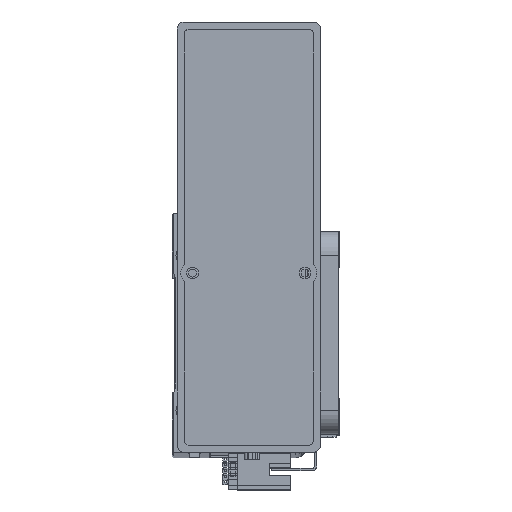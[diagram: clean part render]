
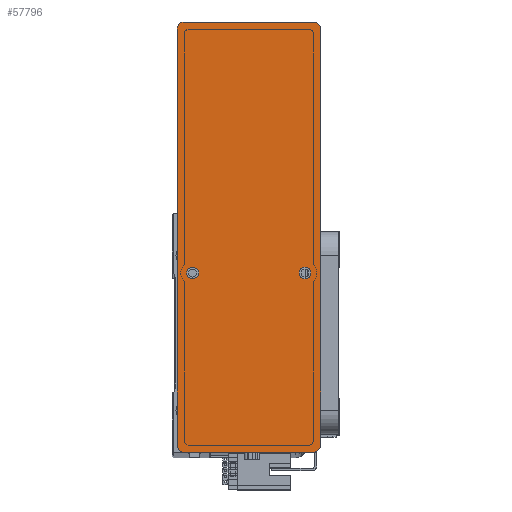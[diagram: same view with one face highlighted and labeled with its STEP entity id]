
A CAD part, top view. The second image highlights one B-rep face of the part: STEP entity #57796.
In plain terms, the highlighted planar face has unit normal (0, 0, 1) as drawn and (0, 0, -1) by its records, which use the part's own axes.
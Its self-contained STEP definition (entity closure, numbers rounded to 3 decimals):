
#886 = CIRCLE ( 'NONE', #36260, 3. ) ;
#2056 = VERTEX_POINT ( 'NONE', #12067 ) ;
#2111 = EDGE_CURVE ( 'NONE', #51467, #55184, #886, .T. ) ;
#2482 = VECTOR ( 'NONE', #28591, 1000. ) ;
#2752 = CARTESIAN_POINT ( 'NONE',  ( -12.5, -23.5, 0. ) ) ;
#2822 = DIRECTION ( 'NONE',  ( -1., 0., 0. ) ) ;
#3588 = AXIS2_PLACEMENT_3D ( 'NONE', #18371, #52938, #23378 ) ;
#3703 = DIRECTION ( 'NONE',  ( -1., 0., 0. ) ) ;
#3746 = DIRECTION ( 'NONE',  ( 1., 0., 0. ) ) ;
#4147 = CARTESIAN_POINT ( 'NONE',  ( 90., -30., 0. ) ) ;
#4393 = CARTESIAN_POINT ( 'NONE',  ( 87., -27., 0. ) ) ;
#5398 = CARTESIAN_POINT ( 'NONE',  ( -12.5, 23.5, 0. ) ) ;
#5594 = CARTESIAN_POINT ( 'NONE',  ( -87., -27., 0. ) ) ;
#6005 = CARTESIAN_POINT ( 'NONE',  ( -15., 23.5, 0. ) ) ;
#6017 = CARTESIAN_POINT ( 'NONE',  ( -17.5, 23.5, 0. ) ) ;
#6042 = CARTESIAN_POINT ( 'NONE',  ( 90., -30., 0. ) ) ;
#7298 = VERTEX_POINT ( 'NONE', #28600 ) ;
#7700 = VERTEX_POINT ( 'NONE', #61780 ) ;
#7721 = EDGE_CURVE ( 'NONE', #47660, #2056, #16360, .T. ) ;
#7762 = ORIENTED_EDGE ( 'NONE', *, *, #2111, .T. ) ;
#8147 = CARTESIAN_POINT ( 'NONE',  ( -87., 27., 0. ) ) ;
#9384 = DIRECTION ( 'NONE',  ( 1., 0., 0. ) ) ;
#10570 = DIRECTION ( 'NONE',  ( 1., 0., 0. ) ) ;
#10989 = DIRECTION ( 'NONE',  ( -1., 0., 0. ) ) ;
#12067 = CARTESIAN_POINT ( 'NONE',  ( -17.5, -23.5, 0. ) ) ;
#12171 = EDGE_CURVE ( 'NONE', #50841, #55184, #54163, .T. ) ;
#12696 = DIRECTION ( 'NONE',  ( -1., 0., 0. ) ) ;
#12735 = EDGE_LOOP ( 'NONE', ( #37733, #62692, #19740, #25967, #22500, #7762, #57820, #30857 ) ) ;
#12772 = AXIS2_PLACEMENT_3D ( 'NONE', #62880, #33317, #3703 ) ;
#13110 = DIRECTION ( 'NONE',  ( 1., 0., 0. ) ) ;
#13116 = CARTESIAN_POINT ( 'NONE',  ( 87., -30., 0. ) ) ;
#13472 = PLANE ( 'NONE',  #47646 ) ;
#14120 = EDGE_CURVE ( 'NONE', #2056, #47660, #42230, .T. ) ;
#14717 = ORIENTED_EDGE ( 'NONE', *, *, #28431, .F. ) ;
#14749 = ORIENTED_EDGE ( 'NONE', *, *, #30706, .F. ) ;
#14888 = VERTEX_POINT ( 'NONE', #6017 ) ;
#14969 = FACE_BOUND ( 'NONE', #43261, .T. ) ;
#15308 = LINE ( 'NONE', #6042, #26923 ) ;
#15556 = DIRECTION ( 'NONE',  ( 0., 0., -1. ) ) ;
#15566 = CIRCLE ( 'NONE', #50588, 3. ) ;
#16325 = VECTOR ( 'NONE', #12696, 1000. ) ;
#16360 = CIRCLE ( 'NONE', #19789, 2.5 ) ;
#17595 = CARTESIAN_POINT ( 'NONE',  ( -90., 27., 0. ) ) ;
#17654 = CARTESIAN_POINT ( 'NONE',  ( 90., 30., 0. ) ) ;
#18371 = CARTESIAN_POINT ( 'NONE',  ( 87., 27., 0. ) ) ;
#18433 = CARTESIAN_POINT ( 'NONE',  ( 0., 0., 0. ) ) ;
#18670 = EDGE_CURVE ( 'NONE', #7700, #53429, #46134, .T. ) ;
#19740 = ORIENTED_EDGE ( 'NONE', *, *, #40321, .F. ) ;
#19789 = AXIS2_PLACEMENT_3D ( 'NONE', #61991, #32435, #2822 ) ;
#22252 = CARTESIAN_POINT ( 'NONE',  ( 90., 27., 0. ) ) ;
#22500 = ORIENTED_EDGE ( 'NONE', *, *, #45728, .F. ) ;
#23378 = DIRECTION ( 'NONE',  ( 1., 0., 0. ) ) ;
#24626 = CARTESIAN_POINT ( 'NONE',  ( 87., 30., 0. ) ) ;
#25967 = ORIENTED_EDGE ( 'NONE', *, *, #18670, .T. ) ;
#26606 = FACE_BOUND ( 'NONE', #47031, .T. ) ;
#26923 = VECTOR ( 'NONE', #35637, 1000. ) ;
#28122 = FACE_OUTER_BOUND ( 'NONE', #12735, .T. ) ;
#28431 = EDGE_CURVE ( 'NONE', #30897, #14888, #60867, .T. ) ;
#28591 = DIRECTION ( 'NONE',  ( 1., 0., 0. ) ) ;
#28600 = CARTESIAN_POINT ( 'NONE',  ( 90., -27., 0. ) ) ;
#29857 = EDGE_CURVE ( 'NONE', #50841, #39636, #62776, .T. ) ;
#30706 = EDGE_CURVE ( 'NONE', #14888, #30897, #62613, .T. ) ;
#30857 = ORIENTED_EDGE ( 'NONE', *, *, #29857, .T. ) ;
#30897 = VERTEX_POINT ( 'NONE', #5398 ) ;
#32435 = DIRECTION ( 'NONE',  ( 0., 0., -1. ) ) ;
#33317 = DIRECTION ( 'NONE',  ( 0., 0., -1. ) ) ;
#33358 = DIRECTION ( 'NONE',  ( 0., 0., 1. ) ) ;
#34128 = LINE ( 'NONE', #49400, #60406 ) ;
#35637 = DIRECTION ( 'NONE',  ( 0., 1., 0. ) ) ;
#36260 = AXIS2_PLACEMENT_3D ( 'NONE', #8147, #42677, #13110 ) ;
#37733 = ORIENTED_EDGE ( 'NONE', *, *, #60575, .F. ) ;
#38927 = DIRECTION ( 'NONE',  ( 0., 0., -1. ) ) ;
#39636 = VERTEX_POINT ( 'NONE', #22252 ) ;
#40154 = DIRECTION ( 'NONE',  ( 0., 0., -1. ) ) ;
#40321 = EDGE_CURVE ( 'NONE', #7700, #49642, #53484, .T. ) ;
#40537 = DIRECTION ( 'NONE',  ( 0., 0., -1. ) ) ;
#41833 = EDGE_CURVE ( 'NONE', #7298, #49642, #15566, .T. ) ;
#42230 = CIRCLE ( 'NONE', #57914, 2.5 ) ;
#42677 = DIRECTION ( 'NONE',  ( 0., 0., -1. ) ) ;
#43261 = EDGE_LOOP ( 'NONE', ( #14749, #14717 ) ) ;
#44399 = DIRECTION ( 'NONE',  ( 0., -1., 0. ) ) ;
#45127 = CARTESIAN_POINT ( 'NONE',  ( -15., -23.5, 0. ) ) ;
#45728 = EDGE_CURVE ( 'NONE', #51467, #53429, #34128, .T. ) ;
#46134 = CIRCLE ( 'NONE', #61965, 3. ) ;
#47031 = EDGE_LOOP ( 'NONE', ( #51687, #62431 ) ) ;
#47646 = AXIS2_PLACEMENT_3D ( 'NONE', #18433, #33358, #3746 ) ;
#47660 = VERTEX_POINT ( 'NONE', #2752 ) ;
#49400 = CARTESIAN_POINT ( 'NONE',  ( -90., -30., 0. ) ) ;
#49642 = VERTEX_POINT ( 'NONE', #13116 ) ;
#49957 = CARTESIAN_POINT ( 'NONE',  ( -90., -27., 0. ) ) ;
#50088 = DIRECTION ( 'NONE',  ( -1., 0., 0. ) ) ;
#50588 = AXIS2_PLACEMENT_3D ( 'NONE', #4393, #38927, #9384 ) ;
#50841 = VERTEX_POINT ( 'NONE', #24626 ) ;
#51467 = VERTEX_POINT ( 'NONE', #17595 ) ;
#51687 = ORIENTED_EDGE ( 'NONE', *, *, #14120, .F. ) ;
#52938 = DIRECTION ( 'NONE',  ( 0., 0., -1. ) ) ;
#53429 = VERTEX_POINT ( 'NONE', #49957 ) ;
#53484 = LINE ( 'NONE', #4147, #2482 ) ;
#53515 = AXIS2_PLACEMENT_3D ( 'NONE', #6005, #40537, #10989 ) ;
#54163 = LINE ( 'NONE', #17654, #16325 ) ;
#55184 = VERTEX_POINT ( 'NONE', #59337 ) ;
#57796 = ADVANCED_FACE ( 'NONE', ( #14969, #26606, #28122 ), #13472, .F. ) ;
#57820 = ORIENTED_EDGE ( 'NONE', *, *, #12171, .F. ) ;
#57914 = AXIS2_PLACEMENT_3D ( 'NONE', #45127, #15556, #50088 ) ;
#59337 = CARTESIAN_POINT ( 'NONE',  ( -87., 30., 0. ) ) ;
#60406 = VECTOR ( 'NONE', #44399, 1000. ) ;
#60575 = EDGE_CURVE ( 'NONE', #7298, #39636, #15308, .T. ) ;
#60867 = CIRCLE ( 'NONE', #53515, 2.5 ) ;
#61780 = CARTESIAN_POINT ( 'NONE',  ( -87., -30., 0. ) ) ;
#61965 = AXIS2_PLACEMENT_3D ( 'NONE', #5594, #40154, #10570 ) ;
#61991 = CARTESIAN_POINT ( 'NONE',  ( -15., -23.5, 0. ) ) ;
#62431 = ORIENTED_EDGE ( 'NONE', *, *, #7721, .F. ) ;
#62613 = CIRCLE ( 'NONE', #12772, 2.5 ) ;
#62692 = ORIENTED_EDGE ( 'NONE', *, *, #41833, .T. ) ;
#62776 = CIRCLE ( 'NONE', #3588, 3. ) ;
#62880 = CARTESIAN_POINT ( 'NONE',  ( -15., 23.5, 0. ) ) ;
